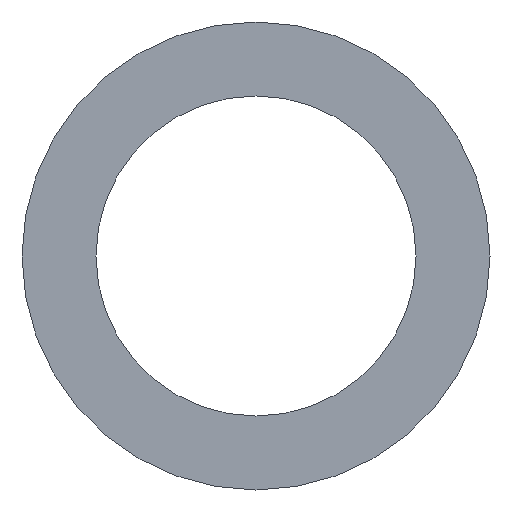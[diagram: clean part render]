
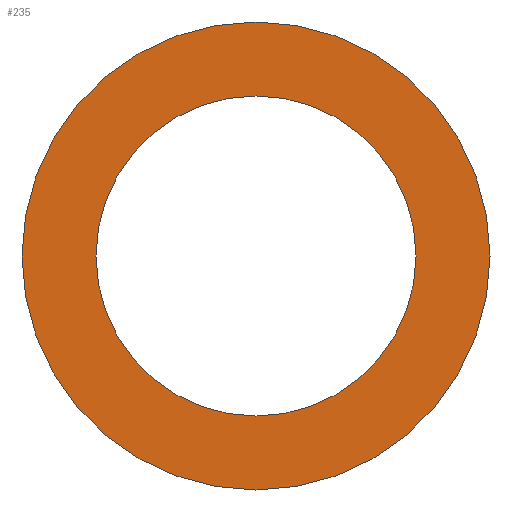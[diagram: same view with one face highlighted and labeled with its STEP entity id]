
A CAD part, left-side view. The second image highlights one B-rep face of the part: STEP entity #235.
In plain terms, the highlighted planar face has unit normal (-1, 0, 0).
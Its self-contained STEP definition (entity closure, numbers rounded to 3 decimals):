
#19 = EDGE_LOOP ( 'NONE', ( #49, #50 ) ) ;
#27 = EDGE_LOOP ( 'NONE', ( #51, #52 ) ) ;
#34 = VERTEX_POINT ( 'NONE', #176 ) ;
#49 = ORIENTED_EDGE ( 'NONE', *, *, #240, .F. ) ;
#50 = ORIENTED_EDGE ( 'NONE', *, *, #241, .F. ) ;
#51 = ORIENTED_EDGE ( 'NONE', *, *, #226, .T. ) ;
#52 = ORIENTED_EDGE ( 'NONE', *, *, #238, .T. ) ;
#62 = VERTEX_POINT ( 'NONE', #178 ) ;
#63 = VERTEX_POINT ( 'NONE', #179 ) ;
#66 = VERTEX_POINT ( 'NONE', #182 ) ;
#76 = FACE_OUTER_BOUND ( 'NONE', #27, .T. ) ;
#77 = FACE_BOUND ( 'NONE', #19, .T. ) ;
#92 = AXIS2_PLACEMENT_3D ( 'NONE', #167, #169, #166 ) ;
#93 = CIRCLE ( 'NONE', #92, 8.55 ) ;
#94 = AXIS2_PLACEMENT_3D ( 'NONE', #203, #204, #207 ) ;
#95 = CIRCLE ( 'NONE', #94, 8.55 ) ;
#98 = AXIS2_PLACEMENT_3D ( 'NONE', #168, #171, #183 ) ;
#99 = CIRCLE ( 'NONE', #98, 12.5 ) ;
#104 = AXIS2_PLACEMENT_3D ( 'NONE', #210, #211, #212 ) ;
#107 = CIRCLE ( 'NONE', #109, 12.5 ) ;
#109 = AXIS2_PLACEMENT_3D ( 'NONE', #189, #190, #192 ) ;
#166 = DIRECTION ( 'NONE',  ( 0., 0., 1. ) ) ;
#167 = CARTESIAN_POINT ( 'NONE',  ( 0., 0., 0. ) ) ;
#168 = CARTESIAN_POINT ( 'NONE',  ( 0., 0., 0. ) ) ;
#169 = DIRECTION ( 'NONE',  ( -1., 0., 0. ) ) ;
#171 = DIRECTION ( 'NONE',  ( -1., 0., 0. ) ) ;
#176 = CARTESIAN_POINT ( 'NONE',  ( 0., 0., -12.5 ) ) ;
#178 = CARTESIAN_POINT ( 'NONE',  ( 0., 0., 8.55 ) ) ;
#179 = CARTESIAN_POINT ( 'NONE',  ( 0., 0., -8.55 ) ) ;
#182 = CARTESIAN_POINT ( 'NONE',  ( 0., 0., 12.5 ) ) ;
#183 = DIRECTION ( 'NONE',  ( 0., 0., 1. ) ) ;
#189 = CARTESIAN_POINT ( 'NONE',  ( 0., 0., 0. ) ) ;
#190 = DIRECTION ( 'NONE',  ( -1., 0., 0. ) ) ;
#192 = DIRECTION ( 'NONE',  ( 0., 0., 1. ) ) ;
#203 = CARTESIAN_POINT ( 'NONE',  ( 0., 0., 0. ) ) ;
#204 = DIRECTION ( 'NONE',  ( -1., 0., 0. ) ) ;
#207 = DIRECTION ( 'NONE',  ( 0., 0., 1. ) ) ;
#209 = PLANE ( 'NONE',  #104 ) ;
#210 = CARTESIAN_POINT ( 'NONE',  ( 0., 8.55, 0. ) ) ;
#211 = DIRECTION ( 'NONE',  ( 1., 0., 0. ) ) ;
#212 = DIRECTION ( 'NONE',  ( 0., 0., -1. ) ) ;
#226 = EDGE_CURVE ( 'NONE', #66, #34, #107, .T. ) ;
#235 = ADVANCED_FACE ( 'NONE', ( #77, #76 ), #209, .F. ) ;
#238 = EDGE_CURVE ( 'NONE', #34, #66, #99, .T. ) ;
#240 = EDGE_CURVE ( 'NONE', #62, #63, #95, .T. ) ;
#241 = EDGE_CURVE ( 'NONE', #63, #62, #93, .T. ) ;
